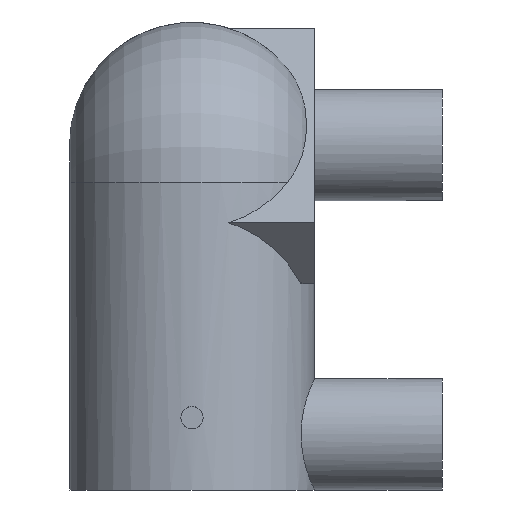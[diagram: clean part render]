
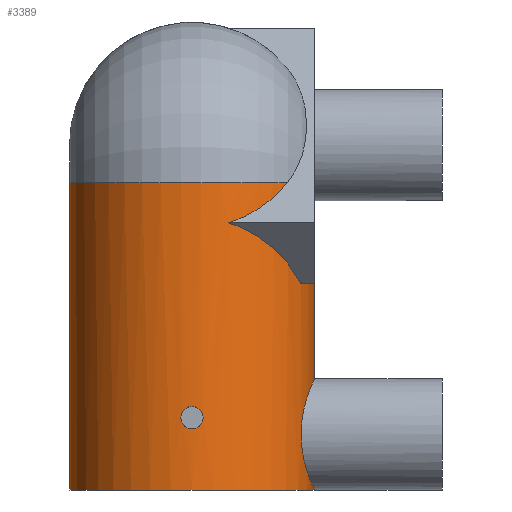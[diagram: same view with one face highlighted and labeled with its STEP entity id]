
A CAD part, left-side view. The second image highlights one B-rep face of the part: STEP entity #3389.
In plain terms, the highlighted cylindrical face has radius 22 mm (diameter 44 mm), a full revolution.
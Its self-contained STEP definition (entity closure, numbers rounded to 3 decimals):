
#463=ELLIPSE('',#4402,31.113,22.);
#464=ELLIPSE('',#4404,34.059,22.);
#465=ELLIPSE('',#4405,31.113,22.);
#466=ELLIPSE('',#4406,31.113,22.);
#467=ELLIPSE('',#4407,31.113,22.);
#600=CIRCLE('',#4397,22.);
#602=CIRCLE('',#4403,22.);
#876=ORIENTED_EDGE('',*,*,#1842,.F.);
#877=ORIENTED_EDGE('',*,*,#1843,.F.);
#878=ORIENTED_EDGE('',*,*,#1844,.F.);
#879=ORIENTED_EDGE('',*,*,#1845,.T.);
#880=ORIENTED_EDGE('',*,*,#1846,.F.);
#881=ORIENTED_EDGE('',*,*,#1847,.F.);
#882=ORIENTED_EDGE('',*,*,#1848,.F.);
#883=ORIENTED_EDGE('',*,*,#1840,.F.);
#884=ORIENTED_EDGE('',*,*,#1839,.F.);
#885=ORIENTED_EDGE('',*,*,#1838,.F.);
#1838=EDGE_CURVE('',#2329,#2329,#2648,.T.);
#1839=EDGE_CURVE('',#2329,#2329,#600,.T.);
#1840=EDGE_CURVE('',#2330,#2330,#2649,.T.);
#1842=EDGE_CURVE('',#2332,#2333,#463,.F.);
#1843=EDGE_CURVE('',#2334,#2332,#602,.F.);
#1844=EDGE_CURVE('',#2335,#2334,#2650,.F.);
#1845=EDGE_CURVE('',#2335,#2336,#464,.T.);
#1846=EDGE_CURVE('',#2337,#2336,#465,.F.);
#1847=EDGE_CURVE('',#2338,#2337,#466,.F.);
#1848=EDGE_CURVE('',#2333,#2338,#467,.F.);
#2329=VERTEX_POINT('',#6089);
#2330=VERTEX_POINT('',#6104);
#2332=VERTEX_POINT('',#6110);
#2333=VERTEX_POINT('',#6111);
#2334=VERTEX_POINT('',#6113);
#2335=VERTEX_POINT('',#6118);
#2336=VERTEX_POINT('',#6120);
#2337=VERTEX_POINT('',#6122);
#2338=VERTEX_POINT('',#6124);
#2648=B_SPLINE_CURVE_WITH_KNOTS('',3,(#6069,#6070,#6071,#6072,#6073,#6074,
#6075,#6076,#6077,#6078,#6079,#6080,#6081,#6082,#6083,#6084,#6085,#6086,
#6087,#6088),.UNSPECIFIED.,.T.,.F.,(1,1,1,1,1,1,1,1,1,1,1,1,1,1,1,1,1,1,
1,1,1,1,1,1),(-0.008,-0.004,-0.002,
0.,0.004,0.008,0.012,
0.016,0.02,0.024,0.028,
0.032,0.036,0.04,0.044,
0.048,0.051,0.055,0.059,
0.061,0.063,0.067,0.071,
0.075),.UNSPECIFIED.);
#2649=B_SPLINE_CURVE_WITH_KNOTS('',3,(#6093,#6094,#6095,#6096,#6097,#6098,
#6099,#6100,#6101,#6102,#6103),.UNSPECIFIED.,.T.,.F.,(1,1,1,1,1,1,1,1,1,
1,1,1,1,1,1),(-0.005,-0.003,-0.002,
0.,0.002,0.003,0.005,
0.006,0.008,0.009,0.011,
0.013,0.014,0.016,0.017),
 .UNSPECIFIED.);
#2650=B_SPLINE_CURVE_WITH_KNOTS('',3,(#6114,#6115,#6116,#6117),
 .UNSPECIFIED.,.F.,.F.,(4,4),(0.,0.005),
 .UNSPECIFIED.);
#2724=EDGE_LOOP('',(#876,#877,#878,#879,#880,#881,#882));
#2725=EDGE_LOOP('',(#883));
#2726=EDGE_LOOP('',(#884,#885));
#3032=FACE_BOUND('',#2724,.T.);
#3033=FACE_BOUND('',#2725,.T.);
#3034=FACE_BOUND('',#2726,.T.);
#3318=CYLINDRICAL_SURFACE('',#4401,22.);
#3389=ADVANCED_FACE('',(#3032,#3033,#3034),#3318,.T.);
#4397=AXIS2_PLACEMENT_3D('',#6091,#4909,#4910);
#4401=AXIS2_PLACEMENT_3D('',#6108,#4917,#4918);
#4402=AXIS2_PLACEMENT_3D('',#6109,#4919,#4920);
#4403=AXIS2_PLACEMENT_3D('',#6112,#4921,#4922);
#4404=AXIS2_PLACEMENT_3D('',#6119,#4923,#4924);
#4405=AXIS2_PLACEMENT_3D('',#6121,#4925,#4926);
#4406=AXIS2_PLACEMENT_3D('',#6123,#4927,#4928);
#4407=AXIS2_PLACEMENT_3D('',#6125,#4929,#4930);
#4909=DIRECTION('',(0.,0.,-1.));
#4910=DIRECTION('',(1.,0.,0.));
#4917=DIRECTION('',(0.,0.,-1.));
#4918=DIRECTION('',(-1.,0.,0.));
#4919=DIRECTION('',(-0.707,0.,0.707));
#4920=DIRECTION('',(-0.707,0.,-0.707));
#4921=DIRECTION('',(0.,0.,-1.));
#4922=DIRECTION('',(0.,-1.,0.));
#4923=DIRECTION('',(-0.763,0.,-0.646));
#4924=DIRECTION('',(0.646,0.,-0.763));
#4925=DIRECTION('',(0.707,0.,-0.707));
#4926=DIRECTION('',(-0.707,0.,-0.707));
#4927=DIRECTION('',(0.707,0.,-0.707));
#4928=DIRECTION('',(-0.707,0.,-0.707));
#4929=DIRECTION('',(-0.707,0.,-0.707));
#4930=DIRECTION('',(0.707,0.,-0.707));
#6069=CARTESIAN_POINT('',(-2.009,-21.937,0.137));
#6070=CARTESIAN_POINT('',(0.674,-22.063,-0.136));
#6071=CARTESIAN_POINT('',(3.976,-21.746,0.542));
#6072=CARTESIAN_POINT('',(7.254,-20.839,2.758));
#6073=CARTESIAN_POINT('',(9.453,-19.888,6.019));
#6074=CARTESIAN_POINT('',(10.271,-19.451,9.978));
#6075=CARTESIAN_POINT('',(9.464,-19.883,13.967));
#6076=CARTESIAN_POINT('',(7.256,-20.838,17.239));
#6077=CARTESIAN_POINT('',(3.988,-21.744,19.453));
#6078=CARTESIAN_POINT('',(0.022,-22.126,20.27));
#6079=CARTESIAN_POINT('',(-3.961,-21.75,19.467));
#6080=CARTESIAN_POINT('',(-7.25,-20.841,17.247));
#6081=CARTESIAN_POINT('',(-9.454,-19.887,13.982));
#6082=CARTESIAN_POINT('',(-10.27,-19.452,10.018));
#6083=CARTESIAN_POINT('',(-9.465,-19.882,6.04));
#6084=CARTESIAN_POINT('',(-7.26,-20.838,2.76));
#6085=CARTESIAN_POINT('',(-4.517,-21.594,0.912));
#6086=CARTESIAN_POINT('',(-2.009,-21.937,0.137));
#6087=CARTESIAN_POINT('',(0.674,-22.063,-0.136));
#6088=CARTESIAN_POINT('',(3.976,-21.746,0.542));
#6089=CARTESIAN_POINT('',(0.,-22.,0.));
#6091=CARTESIAN_POINT('',(0.,0.,0.));
#6093=CARTESIAN_POINT('',(-21.954,-1.569,14.566));
#6094=CARTESIAN_POINT('',(-22.023,0.,15.217));
#6095=CARTESIAN_POINT('',(-21.955,1.567,14.566));
#6096=CARTESIAN_POINT('',(-21.886,2.216,13.002));
#6097=CARTESIAN_POINT('',(-21.954,1.568,11.433));
#6098=CARTESIAN_POINT('',(-22.023,0.,10.784));
#6099=CARTESIAN_POINT('',(-21.955,-1.565,11.431));
#6100=CARTESIAN_POINT('',(-21.886,-2.216,12.998));
#6101=CARTESIAN_POINT('',(-21.954,-1.569,14.566));
#6102=CARTESIAN_POINT('',(-22.023,0.,15.217));
#6103=CARTESIAN_POINT('',(-21.955,1.567,14.566));
#6104=CARTESIAN_POINT('',(-22.,0.,15.));
#6108=CARTESIAN_POINT('',(0.,0.,40.25));
#6109=CARTESIAN_POINT('',(0.,0.,69.006));
#6110=CARTESIAN_POINT('',(-13.756,-17.169,55.25));
#6111=CARTESIAN_POINT('',(-21.004,-6.545,48.002));
#6112=CARTESIAN_POINT('',(0.,0.,55.25));
#6113=CARTESIAN_POINT('',(0.,22.,55.25));
#6114=CARTESIAN_POINT('',(0.,22.,55.25));
#6115=CARTESIAN_POINT('',(0.008,22.,57.119));
#6116=CARTESIAN_POINT('',(0.401,22.007,58.969));
#6117=CARTESIAN_POINT('',(1.1,21.972,60.7));
#6118=CARTESIAN_POINT('',(1.1,21.972,60.7));
#6119=CARTESIAN_POINT('',(0.,0.,62.));
#6120=CARTESIAN_POINT('',(6.836,-20.911,53.921));
#6121=CARTESIAN_POINT('',(0.,0.,47.086));
#6122=CARTESIAN_POINT('',(0.,-22.,47.086));
#6123=CARTESIAN_POINT('',(0.,0.,47.086));
#6124=CARTESIAN_POINT('',(-10.044,-19.574,37.042));
#6125=CARTESIAN_POINT('',(0.,0.,26.998));
